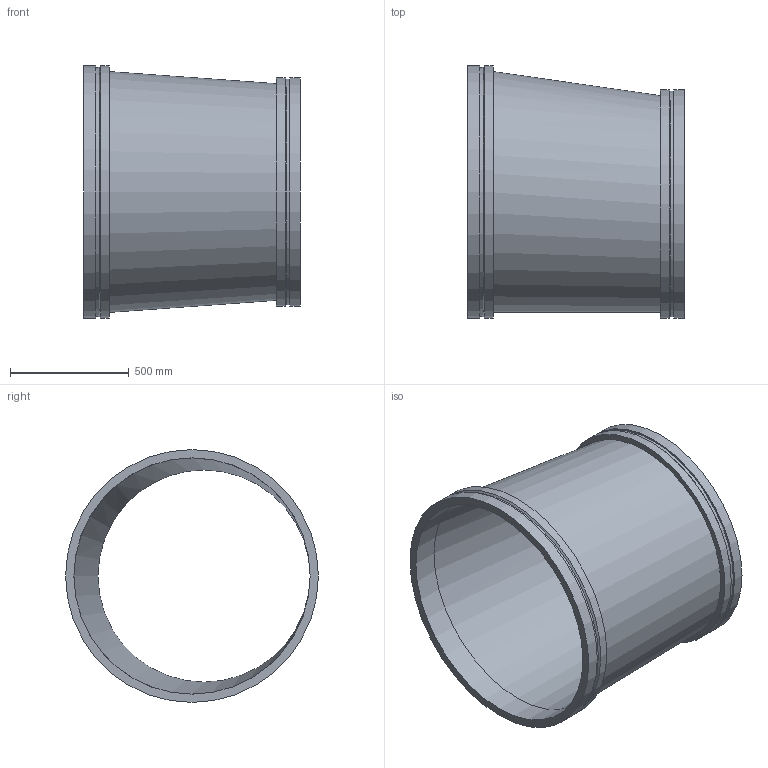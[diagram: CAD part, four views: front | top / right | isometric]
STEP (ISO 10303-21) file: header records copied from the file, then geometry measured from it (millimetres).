
FILE_DESCRIPTION(/* description */ ('VIC REDUCER ECCENTRIC No W51-VR','CAx-IF Rec.Pracs.---Representation and Presentation of Product Manufacturing Information (PMI)---4.0---2014-10-13'),/* implementation_level */ '2;1');
FILE_NAME(/* name */ 'C:\Users\kkamble\AppData\Roaming\Autodesk\ApplicationPlugins\Back Up\Victaulic_Vic-Ring_Reducer Eccentric_No W51 VR (AGR)\Victaulic_Vic-Ring_Reducer Eccentric_No W51 VR (AGR)_40.0x36.0 (1000x900).stp',/* time_stamp */ '2020-09-10T11:51:02+05:00',/* author */ ('CONSTRUCTION PIPING SERVICES'),/* organization */ ('Victaulic'),/* preprocessor_version */ 'ST-DEVELOPER v17.2',/* originating_system */ 'Autodesk Inventor 2019',/* authorisation */ '');
FILE_SCHEMA (('AP242_MANAGED_MODEL_BASED_3D_ENGINEERING_MIM_LF { 1 0 10303 442 1 1 4 }'));
Length unit declared in the file: inch
Products named in the file (1): W51 VR-40.0x36.0
Bounding box: 914.4 x 1066.8 x 1066.8 mm (x, y, z)
Volume: 41976738.1 mm3; surface area: 5985061.8 mm2
Topology: 1 solids, 1 shells, 18 faces, 49 edges, 37 vertices
Faces by surface type: cylinder 8, plane 6, cone 2, bspline 2
Full cylindrical faces by diameter (mm): 895.35 x1, 950.722 x1, 965.2 x2, 996.95 x1, 1050.925 x1, 1066.8 x2
Entity records: 792 total; most frequent: CARTESIAN_POINT 158, DIRECTION 144, ORIENTED_EDGE 98, AXIS2_PLACEMENT_3D 67, EDGE_CURVE 49, CIRCLE 37, VERTEX_POINT 37, EDGE_LOOP 24
